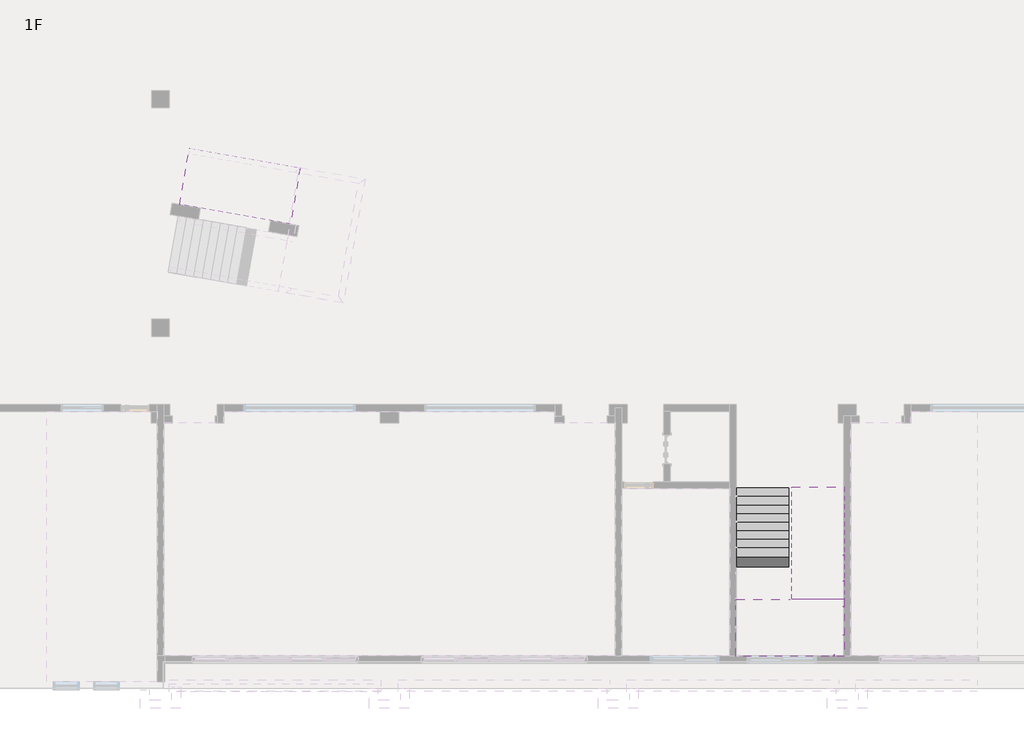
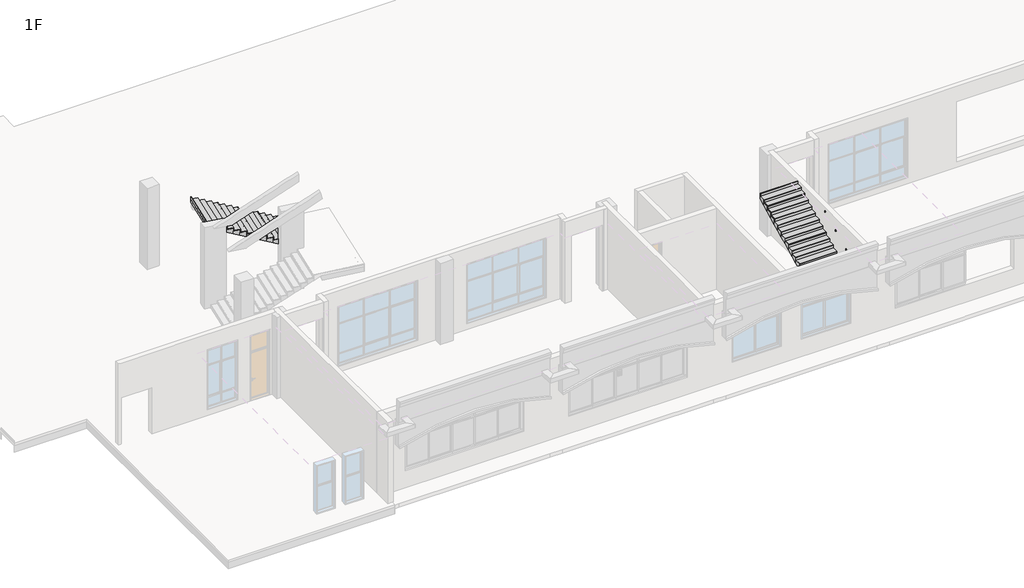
# One storey, part 10 of 16: 5 proxies, 3 stair flights, 1 slab.
"""IFC4 building model written with IfcOpenShell, lengths in millimetres."""

from ifc_helpers import new_model, si_unit, frame, origin, origin_with_axes, place, context, project, spatial, polyline, outline, extrude, faceted_brep, transform, mapped, element, save
from components import building_element_proxy_cf76aa7a

model = new_model("IFC4")

# Units and contexts
model_context = context("Model", 3, world=origin())
ifc_project = project(units=[si_unit("LENGTHUNIT", "METRE", prefix="MILLI")], contexts=[model_context])

# Site, building, storey
site = spatial("IfcSite", under=ifc_project)
building = spatial("IfcBuilding", under=site)
storey = spatial("IfcBuildingStorey", under=building, Name="1F", Elevation=0.0)

# Proxies
placement = place(None, origin())
building_element_proxy_shape = building_element_proxy_cf76aa7a(model_context)
element("IfcBuildingElementProxy", 1, Name="支座 - 金属 - 圆形 : 支座 - 金属 - 圆形", ObjectType="支座 - 金属 - 圆形 : 支座 - 金属 - 圆形", at=placement, inside=storey, context=model_context, shape_type="MappedRepresentation", body=[
    mapped(building_element_proxy_shape, transform((34538.8713753, 1173.0, 3169.8465326), x_axis=(-1.0, 0.0, 0.0), y_axis=(0.0, -1.0, 0.0), z_axis=(0.0, 0.0, 1.0))),
])
element("IfcBuildingElementProxy", 2, Name="支座 - 金属 - 圆形 : 支座 - 金属 - 圆形", ObjectType="支座 - 金属 - 圆形 : 支座 - 金属 - 圆形", at=placement, inside=storey, context=model_context, shape_type="MappedRepresentation", body=[
    mapped(building_element_proxy_shape, transform((34845.0, 1866.8713753, 3169.8465326), x_axis=(0.0, -1.0, 0.0), y_axis=(1.0, 0.0, 0.0), z_axis=(0.0, 0.0, 1.0))),
])
element("IfcBuildingElementProxy", 3, Name="支座 - 金属 - 圆形 : 支座 - 金属 - 圆形", ObjectType="支座 - 金属 - 圆形 : 支座 - 金属 - 圆形", at=placement, inside=storey, context=model_context, shape_type="MappedRepresentation", body=[
    mapped(building_element_proxy_shape, transform((34845.0, 2859.8115764, 3199.7523208), x_axis=(0.0, -1.0, 0.0), y_axis=(1.0, 0.0, 0.0), z_axis=(0.0, 0.0, 1.0))),
])
element("IfcBuildingElementProxy", 4, Name="支座 - 金属 - 圆形 : 支座 - 金属 - 圆形", ObjectType="支座 - 金属 - 圆形 : 支座 - 金属 - 圆形", at=placement, inside=storey, context=model_context, shape_type="MappedRepresentation", body=[
    mapped(building_element_proxy_shape, transform((34845.0, 3754.2387674, 3646.9659163), x_axis=(0.0, -1.0, 0.0), y_axis=(1.0, 0.0, 0.0), z_axis=(0.0, 0.0, 1.0))),
])
element("IfcBuildingElementProxy", 5, Name="支座 - 金属 - 圆形 : 支座 - 金属 - 圆形", ObjectType="支座 - 金属 - 圆形 : 支座 - 金属 - 圆形", at=placement, inside=storey, context=model_context, shape_type="MappedRepresentation", body=[
    mapped(building_element_proxy_shape, transform((34845.0, 4648.6659584, 4094.1795118), x_axis=(0.0, -1.0, 0.0), y_axis=(1.0, 0.0, 0.0), z_axis=(0.0, 0.0, 1.0))),
])

# Slab
element("IfcSlab", 6, ObjectType="120mm 厚度", at=placement, inside=storey, context=model_context, shape_type="SolidModel", body=[
    faceted_brep([(32950.0000029, 3100.0, 2070.0), (32950.0000029, 3070.0, 2070.0), (31100.0000029, 3070.0, 2070.0), (31100.0000029, 2741.6718427, 2070.0), (31100.0000029, 1118.0, 2070.0), (34900.0, 1118.0, 2070.0), (34900.0, 3100.0, 2070.0), (34900.0, 3130.0, 2070.0), (33050.0, 3130.0, 2070.0), (33050.0, 3100.0, 2070.0), (32950.0000029, 3100.0, 1950.0), (32950.0000029, 3070.0, 1950.0), (32950.0000029, 3070.0, 1920.0), (32950.0000029, 3070.0, 1785.8359214), (31100.0000029, 3070.0, 1785.8359214), (31100.0000029, 3070.0, 1920.0), (31100.0000029, 2741.6718427, 1950.0), (31100.0000029, 1118.0, 1950.0), (34900.0, 1118.0, 1950.0), (34900.0, 3100.0, 1950.0), (34900.0, 3130.0, 1950.0), (33050.0, 3130.0, 1950.0), (33050.0, 3100.0, 1950.0), (32950.0000029, 2741.6718427, 1950.0)], [[[0, 1, 2, 3, 4, 5, 6, 7, 8, 9]], [[1, 0, 10, 11]], [[2, 1, 11, 12, 13, 14, 15]], [[2, 15, 14, 16, 17, 4, 3]], [[5, 4, 17, 18]], [[6, 5, 18, 19]], [[7, 6, 19, 20]], [[8, 7, 20, 21]], [[9, 8, 21, 22]], [[0, 9, 22, 10]], [[16, 23, 11, 10, 22, 21, 20, 19, 18, 17]], [[23, 16, 14, 13]], [[11, 23, 13, 12]]]),
    extrude(outline(polyline([(32950.0000029, 3100.0), (33050.0, 3100.0), (34900.0, 3100.0), (34900.0, 1118.0), (31100.0000029, 1118.0), (31100.0000029, 3100.0), (32950.0000029, 3100.0)])), frame((0.0, 0.0, 2070.0), z_axis=(0.0, 0.0, 1.0), x_axis=(1.0, 0.0, 0.0)), (0.0, 0.0, 1.0), 30.0),
])

# Stair flights
element("IfcStairFlight", 7, ObjectType="120mm 结构深度", at=placement, inside=storey, context=model_context, shape_type="SolidModel", body=[
    faceted_brep([(32950.0000029, 6670.0, 120.0), (32950.0000029, 6970.0, 120.0), (31100.0000029, 6970.0, 120.0), (31100.0000029, 6670.0, 120.0), (32950.0000029, 6670.0, 0.0), (32950.0000029, 6970.0, 0.0), (31100.0000029, 6970.0, 0.0), (31100.0000029, 6670.0, 0.0), (32950.0000029, 6370.0, 270.0), (32950.0000029, 6670.0, 270.0), (31100.0000029, 6670.0, 270.0), (31100.0000029, 6370.0, 270.0), (32950.0000029, 6370.0, 135.8359214), (32950.0000029, 6641.6718427, 0.0), (31100.0000029, 6641.6718427, 0.0), (31100.0000029, 6370.0, 135.8359214), (32950.0000029, 6070.0, 420.0), (32950.0000029, 6370.0, 420.0), (31100.0000029, 6370.0, 420.0), (31100.0000029, 6070.0, 420.0), (32950.0000029, 6070.0, 285.8359214), (31100.0000029, 6070.0, 285.8359214), (32950.0000029, 5770.0, 570.0), (32950.0000029, 6070.0, 570.0), (31100.0000029, 6070.0, 570.0), (31100.0000029, 5770.0, 570.0), (32950.0000029, 5770.0, 435.8359214), (31100.0000029, 5770.0, 435.8359214), (32950.0000029, 5470.0, 720.0), (32950.0000029, 5770.0, 720.0), (31100.0000029, 5770.0, 720.0), (31100.0000029, 5470.0, 720.0), (32950.0000029, 5470.0, 585.8359214), (31100.0000029, 5470.0, 585.8359214), (32950.0000029, 5170.0, 870.0), (32950.0000029, 5470.0, 870.0), (31100.0000029, 5470.0, 870.0), (31100.0000029, 5170.0, 870.0), (32950.0000029, 5170.0, 735.8359214), (31100.0000029, 5170.0, 735.8359214), (32950.0000029, 4870.0, 1020.0), (32950.0000029, 5170.0, 1020.0), (31100.0000029, 5170.0, 1020.0), (31100.0000029, 4870.0, 1020.0), (32950.0000029, 4870.0, 885.8359214), (31100.0000029, 4870.0, 885.8359214), (32950.0000029, 4570.0, 1170.0), (32950.0000029, 4870.0, 1170.0), (31100.0000029, 4870.0, 1170.0), (31100.0000029, 4570.0, 1170.0), (32950.0000029, 4570.0, 1035.8359214), (31100.0000029, 4570.0, 1035.8359214), (32950.0000029, 4270.0, 1320.0), (32950.0000029, 4570.0, 1320.0), (31100.0000029, 4570.0, 1320.0), (31100.0000029, 4270.0, 1320.0), (32950.0000029, 4270.0, 1185.8359214), (31100.0000029, 4270.0, 1185.8359214), (32950.0000029, 3970.0, 1470.0), (32950.0000029, 4270.0, 1470.0), (31100.0000029, 4270.0, 1470.0), (31100.0000029, 3970.0, 1470.0), (32950.0000029, 3970.0, 1335.8359214), (31100.0000029, 3970.0, 1335.8359214), (32950.0000029, 3670.0, 1620.0), (32950.0000029, 3970.0, 1620.0), (31100.0000029, 3970.0, 1620.0), (31100.0000029, 3670.0, 1620.0), (32950.0000029, 3670.0, 1485.8359214), (31100.0000029, 3670.0, 1485.8359214), (32950.0000029, 3370.0, 1770.0), (32950.0000029, 3670.0, 1770.0), (31100.0000029, 3670.0, 1770.0), (31100.0000029, 3370.0, 1770.0), (32950.0000029, 3370.0, 1635.8359214), (31100.0000029, 3370.0, 1635.8359214), (32950.0000029, 3070.0, 1920.0), (32950.0000029, 3370.0, 1920.0), (31100.0000029, 3370.0, 1920.0), (31100.0000029, 3100.0, 1920.0), (31100.0000029, 3070.0, 1920.0), (32950.0000029, 3070.0, 1785.8359214), (31100.0000029, 3100.0, 1770.8359214), (31100.0000029, 3070.0, 1785.8359214)], [[[0, 1, 2, 3]], [[1, 0, 4, 5]], [[2, 1, 5, 6]], [[3, 2, 6, 7]], [[8, 9, 10, 11]], [[4, 0, 9, 8, 12, 13]], [[0, 3, 10, 9]], [[3, 7, 14, 15, 11, 10]], [[16, 17, 18, 19]], [[17, 16, 20, 12, 8]], [[8, 11, 18, 17]], [[19, 18, 11, 15, 21]], [[22, 23, 24, 25]], [[23, 22, 26, 20, 16]], [[16, 19, 24, 23]], [[25, 24, 19, 21, 27]], [[28, 29, 30, 31]], [[29, 28, 32, 26, 22]], [[22, 25, 30, 29]], [[31, 30, 25, 27, 33]], [[34, 35, 36, 37]], [[35, 34, 38, 32, 28]], [[28, 31, 36, 35]], [[37, 36, 31, 33, 39]], [[40, 41, 42, 43]], [[41, 40, 44, 38, 34]], [[34, 37, 42, 41]], [[43, 42, 37, 39, 45]], [[46, 47, 48, 49]], [[47, 46, 50, 44, 40]], [[40, 43, 48, 47]], [[49, 48, 43, 45, 51]], [[52, 53, 54, 55]], [[53, 52, 56, 50, 46]], [[46, 49, 54, 53]], [[55, 54, 49, 51, 57]], [[58, 59, 60, 61]], [[59, 58, 62, 56, 52]], [[52, 55, 60, 59]], [[61, 60, 55, 57, 63]], [[64, 65, 66, 67]], [[65, 64, 68, 62, 58]], [[58, 61, 66, 65]], [[67, 66, 61, 63, 69]], [[70, 71, 72, 73]], [[71, 70, 74, 68, 64]], [[64, 67, 72, 71]], [[73, 72, 67, 69, 75]], [[76, 77, 78, 79, 80]], [[77, 76, 81, 74, 70]], [[70, 73, 78, 77]], [[78, 73, 75, 82, 83, 80, 79]], [[76, 80, 83, 81]], [[5, 4, 13, 14, 7, 6]], [[14, 13, 12, 20, 26, 32, 38, 44, 50, 56, 62, 68, 74, 81, 83, 82, 75, 69, 63, 57, 51, 45, 39, 33, 27, 21, 15]]]),
    extrude(outline(polyline([(31100.0000029, 6970.0), (31100.0000029, 7000.0), (32950.0000029, 7000.0), (32950.0000029, 6970.0), (31100.0000029, 6970.0)])), origin_with_axes(), (0.0, 0.0, 1.0), 120.0),
    extrude(outline(polyline([(32950.0000029, 6700.0), (31100.0000029, 6700.0), (31100.0000029, 7000.0), (32950.0000029, 7000.0), (32950.0000029, 6700.0)])), frame((0.0, 0.0, 120.0), z_axis=(0.0, 0.0, 1.0), x_axis=(1.0, 0.0, 0.0)), (0.0, 0.0, 1.0), 30.0),
    extrude(outline(polyline([(31100.0000029, 6670.0), (31100.0000029, 6700.0), (32950.0000029, 6700.0), (32950.0000029, 6670.0), (31100.0000029, 6670.0)])), frame((0.0, 0.0, 120.0), z_axis=(0.0, 0.0, 1.0), x_axis=(1.0, 0.0, 0.0)), (0.0, 0.0, 1.0), 150.0),
    extrude(outline(polyline([(32950.0000029, 6400.0), (31100.0000029, 6400.0), (31100.0000029, 6700.0), (32950.0000029, 6700.0), (32950.0000029, 6400.0)])), frame((0.0, 0.0, 270.0), z_axis=(0.0, 0.0, 1.0), x_axis=(1.0, 0.0, 0.0)), (0.0, 0.0, 1.0), 30.0),
    extrude(outline(polyline([(31100.0000029, 6370.0), (31100.0000029, 6400.0), (32950.0000029, 6400.0), (32950.0000029, 6370.0), (31100.0000029, 6370.0)])), frame((0.0, 0.0, 270.0), z_axis=(0.0, 0.0, 1.0), x_axis=(1.0, 0.0, 0.0)), (0.0, 0.0, 1.0), 150.0),
    extrude(outline(polyline([(32950.0000029, 6100.0), (31100.0000029, 6100.0), (31100.0000029, 6400.0), (32950.0000029, 6400.0), (32950.0000029, 6100.0)])), frame((0.0, 0.0, 420.0), z_axis=(0.0, 0.0, 1.0), x_axis=(1.0, 0.0, 0.0)), (0.0, 0.0, 1.0), 30.0),
    extrude(outline(polyline([(31100.0000029, 6070.0), (31100.0000029, 6100.0), (32950.0000029, 6100.0), (32950.0000029, 6070.0), (31100.0000029, 6070.0)])), frame((0.0, 0.0, 420.0), z_axis=(0.0, 0.0, 1.0), x_axis=(1.0, 0.0, 0.0)), (0.0, 0.0, 1.0), 150.0),
    extrude(outline(polyline([(32950.0000029, 5800.0), (31100.0000029, 5800.0), (31100.0000029, 6100.0), (32950.0000029, 6100.0), (32950.0000029, 5800.0)])), frame((0.0, 0.0, 570.0), z_axis=(0.0, 0.0, 1.0), x_axis=(1.0, 0.0, 0.0)), (0.0, 0.0, 1.0), 30.0),
    extrude(outline(polyline([(31100.0000029, 5770.0), (31100.0000029, 5800.0), (32950.0000029, 5800.0), (32950.0000029, 5770.0), (31100.0000029, 5770.0)])), frame((0.0, 0.0, 570.0), z_axis=(0.0, 0.0, 1.0), x_axis=(1.0, 0.0, 0.0)), (0.0, 0.0, 1.0), 150.0),
    extrude(outline(polyline([(32950.0000029, 5500.0), (31100.0000029, 5500.0), (31100.0000029, 5800.0), (32950.0000029, 5800.0), (32950.0000029, 5500.0)])), frame((0.0, 0.0, 720.0), z_axis=(0.0, 0.0, 1.0), x_axis=(1.0, 0.0, 0.0)), (0.0, 0.0, 1.0), 30.0),
    extrude(outline(polyline([(31100.0000029, 5470.0), (31100.0000029, 5500.0), (32950.0000029, 5500.0), (32950.0000029, 5470.0), (31100.0000029, 5470.0)])), frame((0.0, 0.0, 720.0), z_axis=(0.0, 0.0, 1.0), x_axis=(1.0, 0.0, 0.0)), (0.0, 0.0, 1.0), 150.0),
    extrude(outline(polyline([(32950.0000029, 5200.0), (31100.0000029, 5200.0), (31100.0000029, 5500.0), (32950.0000029, 5500.0), (32950.0000029, 5200.0)])), frame((0.0, 0.0, 870.0), z_axis=(0.0, 0.0, 1.0), x_axis=(1.0, 0.0, 0.0)), (0.0, 0.0, 1.0), 30.0),
    extrude(outline(polyline([(31100.0000029, 5170.0), (31100.0000029, 5200.0), (32950.0000029, 5200.0), (32950.0000029, 5170.0), (31100.0000029, 5170.0)])), frame((0.0, 0.0, 870.0), z_axis=(0.0, 0.0, 1.0), x_axis=(1.0, 0.0, 0.0)), (0.0, 0.0, 1.0), 150.0),
    extrude(outline(polyline([(32950.0000029, 4900.0), (31100.0000029, 4900.0), (31100.0000029, 5200.0), (32950.0000029, 5200.0), (32950.0000029, 4900.0)])), frame((0.0, 0.0, 1020.0), z_axis=(0.0, 0.0, 1.0), x_axis=(1.0, 0.0, 0.0)), (0.0, 0.0, 1.0), 30.0),
    extrude(outline(polyline([(31100.0000029, 4870.0), (31100.0000029, 4900.0), (32950.0000029, 4900.0), (32950.0000029, 4870.0), (31100.0000029, 4870.0)])), frame((0.0, 0.0, 1020.0), z_axis=(0.0, 0.0, 1.0), x_axis=(1.0, 0.0, 0.0)), (0.0, 0.0, 1.0), 150.0),
    extrude(outline(polyline([(32950.0000029, 4600.0), (31100.0000029, 4600.0), (31100.0000029, 4900.0), (32950.0000029, 4900.0), (32950.0000029, 4600.0)])), frame((0.0, 0.0, 1170.0), z_axis=(0.0, 0.0, 1.0), x_axis=(1.0, 0.0, 0.0)), (0.0, 0.0, 1.0), 30.0),
    extrude(outline(polyline([(31100.0000029, 4570.0), (31100.0000029, 4600.0), (32950.0000029, 4600.0), (32950.0000029, 4570.0), (31100.0000029, 4570.0)])), frame((0.0, 0.0, 1170.0), z_axis=(0.0, 0.0, 1.0), x_axis=(1.0, 0.0, 0.0)), (0.0, 0.0, 1.0), 150.0),
    extrude(outline(polyline([(32950.0000029, 4300.0), (31100.0000029, 4300.0), (31100.0000029, 4600.0), (32950.0000029, 4600.0), (32950.0000029, 4300.0)])), frame((0.0, 0.0, 1320.0), z_axis=(0.0, 0.0, 1.0), x_axis=(1.0, 0.0, 0.0)), (0.0, 0.0, 1.0), 30.0),
    extrude(outline(polyline([(31100.0000029, 4270.0), (31100.0000029, 4300.0), (32950.0000029, 4300.0), (32950.0000029, 4270.0), (31100.0000029, 4270.0)])), frame((0.0, 0.0, 1320.0), z_axis=(0.0, 0.0, 1.0), x_axis=(1.0, 0.0, 0.0)), (0.0, 0.0, 1.0), 150.0),
    extrude(outline(polyline([(32950.0000029, 4000.0), (31100.0000029, 4000.0), (31100.0000029, 4300.0), (32950.0000029, 4300.0), (32950.0000029, 4000.0)])), frame((0.0, 0.0, 1470.0), z_axis=(0.0, 0.0, 1.0), x_axis=(1.0, 0.0, 0.0)), (0.0, 0.0, 1.0), 30.0),
    extrude(outline(polyline([(31100.0000029, 3970.0), (31100.0000029, 4000.0), (32950.0000029, 4000.0), (32950.0000029, 3970.0), (31100.0000029, 3970.0)])), frame((0.0, 0.0, 1470.0), z_axis=(0.0, 0.0, 1.0), x_axis=(1.0, 0.0, 0.0)), (0.0, 0.0, 1.0), 150.0),
    extrude(outline(polyline([(32950.0000029, 3700.0), (31100.0000029, 3700.0), (31100.0000029, 4000.0), (32950.0000029, 4000.0), (32950.0000029, 3700.0)])), frame((0.0, 0.0, 1620.0), z_axis=(0.0, 0.0, 1.0), x_axis=(1.0, 0.0, 0.0)), (0.0, 0.0, 1.0), 30.0),
    extrude(outline(polyline([(31100.0000029, 3670.0), (31100.0000029, 3700.0), (32950.0000029, 3700.0), (32950.0000029, 3670.0), (31100.0000029, 3670.0)])), frame((0.0, 0.0, 1620.0), z_axis=(0.0, 0.0, 1.0), x_axis=(1.0, 0.0, 0.0)), (0.0, 0.0, 1.0), 150.0),
    extrude(outline(polyline([(32950.0000029, 3400.0), (31100.0000029, 3400.0), (31100.0000029, 3700.0), (32950.0000029, 3700.0), (32950.0000029, 3400.0)])), frame((0.0, 0.0, 1770.0), z_axis=(0.0, 0.0, 1.0), x_axis=(1.0, 0.0, 0.0)), (0.0, 0.0, 1.0), 30.0),
    extrude(outline(polyline([(31100.0000029, 3370.0), (31100.0000029, 3400.0), (32950.0000029, 3400.0), (32950.0000029, 3370.0), (31100.0000029, 3370.0)])), frame((0.0, 0.0, 1770.0), z_axis=(0.0, 0.0, 1.0), x_axis=(1.0, 0.0, 0.0)), (0.0, 0.0, 1.0), 150.0),
    extrude(outline(polyline([(31100.0000029, 3070.0), (31100.0000029, 3100.0), (32950.0000029, 3100.0), (32950.0000029, 3070.0), (31100.0000029, 3070.0)])), frame((0.0, 0.0, 1920.0), z_axis=(0.0, 0.0, 1.0), x_axis=(1.0, 0.0, 0.0)), (0.0, 0.0, 1.0), 150.0),
    extrude(outline(polyline([(32950.0000029, 3100.0), (31100.0000029, 3100.0), (31100.0000029, 3400.0), (32950.0000029, 3400.0), (32950.0000029, 3100.0)])), frame((0.0, 0.0, 1920.0), z_axis=(0.0, 0.0, 1.0), x_axis=(1.0, 0.0, 0.0)), (0.0, 0.0, 1.0), 30.0),
])
element("IfcStairFlight", 8, ObjectType="120mm 结构深度", at=placement, inside=storey, context=model_context, shape_type="SolidModel", body=[
    faceted_brep([(33050.0, 3130.0, 2220.0), (34900.0, 3130.0, 2220.0), (34900.0, 3158.3281573, 2220.0), (34900.0, 3430.0, 2220.0), (33050.0, 3430.0, 2220.0), (33050.0, 3158.3281573, 2220.0), (33050.0, 3430.0, 2085.8359214), (33050.0, 3158.3281573, 1950.0), (33050.0, 3130.0, 1950.0), (33050.0, 3130.0, 2070.0), (34900.0, 3130.0, 1950.0), (34900.0, 3130.0, 2070.0), (34900.0, 3158.3281573, 1950.0), (34900.0, 3430.0, 2085.8359214), (33050.0, 3730.0, 2370.0), (33050.0, 3430.0, 2370.0), (34900.0, 3430.0, 2370.0), (34900.0, 3730.0, 2370.0), (33050.0, 3730.0, 2235.8359214), (34900.0, 3730.0, 2235.8359214), (33050.0, 4030.0, 2520.0), (33050.0, 3730.0, 2520.0), (34900.0, 3730.0, 2520.0), (34900.0, 4030.0, 2520.0), (33050.0, 4030.0, 2385.8359214), (34900.0, 4030.0, 2385.8359214), (33050.0, 4330.0, 2670.0), (33050.0, 4030.0, 2670.0), (34900.0, 4030.0, 2670.0), (34900.0, 4330.0, 2670.0), (33050.0, 4330.0, 2535.8359214), (34900.0, 4330.0, 2535.8359214), (33050.0, 4630.0, 2820.0), (33050.0, 4330.0, 2820.0), (34900.0, 4330.0, 2820.0), (34900.0, 4630.0, 2820.0), (33050.0, 4630.0, 2685.8359214), (34900.0, 4630.0, 2685.8359214), (33050.0, 4930.0, 2970.0), (33050.0, 4630.0, 2970.0), (34900.0, 4630.0, 2970.0), (34900.0, 4930.0, 2970.0), (33050.0, 4930.0, 2835.8359214), (34900.0, 4930.0, 2835.8359214), (33050.0, 5230.0, 3120.0), (33050.0, 4930.0, 3120.0), (34900.0, 4930.0, 3120.0), (34900.0, 5230.0, 3120.0), (33050.0, 5230.0, 2985.8359214), (34900.0, 5230.0, 2985.8359214), (33050.0, 5530.0, 3270.0), (33050.0, 5230.0, 3270.0), (34900.0, 5230.0, 3270.0), (34900.0, 5530.0, 3270.0), (33050.0, 5530.0, 3135.8359214), (34900.0, 5530.0, 3135.8359214), (33050.0, 5830.0, 3420.0), (33050.0, 5530.0, 3420.0), (34900.0, 5530.0, 3420.0), (34900.0, 5830.0, 3420.0), (33050.0, 5830.0, 3285.8359214), (34900.0, 5830.0, 3285.8359214), (33050.0, 6130.0, 3570.0), (33050.0, 5830.0, 3570.0), (34900.0, 5830.0, 3570.0), (34900.0, 6130.0, 3570.0), (33050.0, 6130.0, 3435.8359214), (34900.0, 6130.0, 3435.8359214), (33050.0, 6430.0, 3720.0), (33050.0, 6130.0, 3720.0), (34900.0, 6130.0, 3720.0), (34900.0, 6430.0, 3720.0), (33050.0, 6430.0, 3585.8359214), (34900.0, 6430.0, 3585.8359214), (33050.0, 6730.0, 3870.0), (33050.0, 6430.0, 3870.0), (34900.0, 6430.0, 3870.0), (34900.0, 6730.0, 3870.0), (33050.0, 6730.0, 3735.8359214), (34900.0, 6730.0, 3735.8359214), (33050.0, 7030.0, 4020.0), (33050.0, 6730.0, 4020.0), (34900.0, 6730.0, 4020.0), (34900.0, 7030.0, 4020.0), (33050.0, 7030.0, 3885.8359214), (34900.0, 7030.0, 3885.8359214)], [[[0, 1, 2, 3, 4, 5]], [[4, 6, 7, 8, 9, 0, 5]], [[1, 0, 9, 8, 10, 11]], [[1, 11, 10, 12, 13, 3, 2]], [[14, 15, 16, 17]], [[15, 14, 18, 6, 4]], [[16, 15, 4, 3]], [[17, 16, 3, 13, 19]], [[20, 21, 22, 23]], [[21, 20, 24, 18, 14]], [[22, 21, 14, 17]], [[23, 22, 17, 19, 25]], [[26, 27, 28, 29]], [[27, 26, 30, 24, 20]], [[28, 27, 20, 23]], [[29, 28, 23, 25, 31]], [[32, 33, 34, 35]], [[33, 32, 36, 30, 26]], [[34, 33, 26, 29]], [[35, 34, 29, 31, 37]], [[38, 39, 40, 41]], [[39, 38, 42, 36, 32]], [[40, 39, 32, 35]], [[41, 40, 35, 37, 43]], [[44, 45, 46, 47]], [[45, 44, 48, 42, 38]], [[46, 45, 38, 41]], [[47, 46, 41, 43, 49]], [[50, 51, 52, 53]], [[51, 50, 54, 48, 44]], [[52, 51, 44, 47]], [[53, 52, 47, 49, 55]], [[56, 57, 58, 59]], [[57, 56, 60, 54, 50]], [[58, 57, 50, 53]], [[59, 58, 53, 55, 61]], [[62, 63, 64, 65]], [[63, 62, 66, 60, 56]], [[64, 63, 56, 59]], [[65, 64, 59, 61, 67]], [[68, 69, 70, 71]], [[69, 68, 72, 66, 62]], [[70, 69, 62, 65]], [[71, 70, 65, 67, 73]], [[74, 75, 76, 77]], [[75, 74, 78, 72, 68]], [[76, 75, 68, 71]], [[77, 76, 71, 73, 79]], [[80, 81, 82, 83]], [[81, 80, 84, 78, 74]], [[82, 81, 74, 77]], [[83, 82, 77, 79, 85]], [[80, 83, 85, 84]], [[12, 7, 6, 18, 24, 30, 36, 42, 48, 54, 60, 66, 72, 78, 84, 85, 79, 73, 67, 61, 55, 49, 43, 37, 31, 25, 19, 13]], [[7, 12, 10, 8]]]),
    extrude(outline(polyline([(34900.0, 3130.0), (34900.0, 3100.0), (33050.0, 3100.0), (33050.0, 3130.0), (34900.0, 3130.0)])), frame((0.0, 0.0, 2070.0), z_axis=(0.0, 0.0, 1.0), x_axis=(1.0, 0.0, 0.0)), (0.0, 0.0, 1.0), 150.0),
    extrude(outline(polyline([(33050.0, 3400.0), (34900.0, 3400.0), (34900.0, 3100.0), (33050.0, 3100.0), (33050.0, 3400.0)])), frame((0.0, 0.0, 2220.0), z_axis=(0.0, 0.0, 1.0), x_axis=(1.0, 0.0, 0.0)), (0.0, 0.0, 1.0), 30.0),
    extrude(outline(polyline([(34900.0, 3430.0), (34900.0, 3400.0), (33050.0, 3400.0), (33050.0, 3430.0), (34900.0, 3430.0)])), frame((0.0, 0.0, 2220.0), z_axis=(0.0, 0.0, 1.0), x_axis=(1.0, 0.0, 0.0)), (0.0, 0.0, 1.0), 150.0),
    extrude(outline(polyline([(33050.0, 3700.0), (34900.0, 3700.0), (34900.0, 3400.0), (33050.0, 3400.0), (33050.0, 3700.0)])), frame((0.0, 0.0, 2370.0), z_axis=(0.0, 0.0, 1.0), x_axis=(1.0, 0.0, 0.0)), (0.0, 0.0, 1.0), 30.0),
    extrude(outline(polyline([(34900.0, 3730.0), (34900.0, 3700.0), (33050.0, 3700.0), (33050.0, 3730.0), (34900.0, 3730.0)])), frame((0.0, 0.0, 2370.0), z_axis=(0.0, 0.0, 1.0), x_axis=(1.0, 0.0, 0.0)), (0.0, 0.0, 1.0), 150.0),
    extrude(outline(polyline([(33050.0, 4000.0), (34900.0, 4000.0), (34900.0, 3700.0), (33050.0, 3700.0), (33050.0, 4000.0)])), frame((0.0, 0.0, 2520.0), z_axis=(0.0, 0.0, 1.0), x_axis=(1.0, 0.0, 0.0)), (0.0, 0.0, 1.0), 30.0),
    extrude(outline(polyline([(34900.0, 4030.0), (34900.0, 4000.0), (33050.0, 4000.0), (33050.0, 4030.0), (34900.0, 4030.0)])), frame((0.0, 0.0, 2520.0), z_axis=(0.0, 0.0, 1.0), x_axis=(1.0, 0.0, 0.0)), (0.0, 0.0, 1.0), 150.0),
    extrude(outline(polyline([(33050.0, 4300.0), (34900.0, 4300.0), (34900.0, 4000.0), (33050.0, 4000.0), (33050.0, 4300.0)])), frame((0.0, 0.0, 2670.0), z_axis=(0.0, 0.0, 1.0), x_axis=(1.0, 0.0, 0.0)), (0.0, 0.0, 1.0), 30.0),
    extrude(outline(polyline([(34900.0, 4330.0), (34900.0, 4300.0), (33050.0, 4300.0), (33050.0, 4330.0), (34900.0, 4330.0)])), frame((0.0, 0.0, 2670.0), z_axis=(0.0, 0.0, 1.0), x_axis=(1.0, 0.0, 0.0)), (0.0, 0.0, 1.0), 150.0),
    extrude(outline(polyline([(33050.0, 4600.0), (34900.0, 4600.0), (34900.0, 4300.0), (33050.0, 4300.0), (33050.0, 4600.0)])), frame((0.0, 0.0, 2820.0), z_axis=(0.0, 0.0, 1.0), x_axis=(1.0, 0.0, 0.0)), (0.0, 0.0, 1.0), 30.0),
    extrude(outline(polyline([(34900.0, 4630.0), (34900.0, 4600.0), (33050.0, 4600.0), (33050.0, 4630.0), (34900.0, 4630.0)])), frame((0.0, 0.0, 2820.0), z_axis=(0.0, 0.0, 1.0), x_axis=(1.0, 0.0, 0.0)), (0.0, 0.0, 1.0), 150.0),
    extrude(outline(polyline([(33050.0, 4900.0), (34900.0, 4900.0), (34900.0, 4600.0), (33050.0, 4600.0), (33050.0, 4900.0)])), frame((0.0, 0.0, 2970.0), z_axis=(0.0, 0.0, 1.0), x_axis=(1.0, 0.0, 0.0)), (0.0, 0.0, 1.0), 30.0),
    extrude(outline(polyline([(34900.0, 4930.0), (34900.0, 4900.0), (33050.0, 4900.0), (33050.0, 4930.0), (34900.0, 4930.0)])), frame((0.0, 0.0, 2970.0), z_axis=(0.0, 0.0, 1.0), x_axis=(1.0, 0.0, 0.0)), (0.0, 0.0, 1.0), 150.0),
    extrude(outline(polyline([(33050.0, 5200.0), (34900.0, 5200.0), (34900.0, 4900.0), (33050.0, 4900.0), (33050.0, 5200.0)])), frame((0.0, 0.0, 3120.0), z_axis=(0.0, 0.0, 1.0), x_axis=(1.0, 0.0, 0.0)), (0.0, 0.0, 1.0), 30.0),
    extrude(outline(polyline([(34900.0, 5230.0), (34900.0, 5200.0), (33050.0, 5200.0), (33050.0, 5230.0), (34900.0, 5230.0)])), frame((0.0, 0.0, 3120.0), z_axis=(0.0, 0.0, 1.0), x_axis=(1.0, 0.0, 0.0)), (0.0, 0.0, 1.0), 150.0),
    extrude(outline(polyline([(33050.0, 5500.0), (34900.0, 5500.0), (34900.0, 5200.0), (33050.0, 5200.0), (33050.0, 5500.0)])), frame((0.0, 0.0, 3270.0), z_axis=(0.0, 0.0, 1.0), x_axis=(1.0, 0.0, 0.0)), (0.0, 0.0, 1.0), 30.0),
    extrude(outline(polyline([(34900.0, 5530.0), (34900.0, 5500.0), (33050.0, 5500.0), (33050.0, 5530.0), (34900.0, 5530.0)])), frame((0.0, 0.0, 3270.0), z_axis=(0.0, 0.0, 1.0), x_axis=(1.0, 0.0, 0.0)), (0.0, 0.0, 1.0), 150.0),
    extrude(outline(polyline([(33050.0, 5800.0), (34900.0, 5800.0), (34900.0, 5500.0), (33050.0, 5500.0), (33050.0, 5800.0)])), frame((0.0, 0.0, 3420.0), z_axis=(0.0, 0.0, 1.0), x_axis=(1.0, 0.0, 0.0)), (0.0, 0.0, 1.0), 30.0),
    extrude(outline(polyline([(34900.0, 5830.0), (34900.0, 5800.0), (33050.0, 5800.0), (33050.0, 5830.0), (34900.0, 5830.0)])), frame((0.0, 0.0, 3420.0), z_axis=(0.0, 0.0, 1.0), x_axis=(1.0, 0.0, 0.0)), (0.0, 0.0, 1.0), 150.0),
    extrude(outline(polyline([(33050.0, 6100.0), (34900.0, 6100.0), (34900.0, 5800.0), (33050.0, 5800.0), (33050.0, 6100.0)])), frame((0.0, 0.0, 3570.0), z_axis=(0.0, 0.0, 1.0), x_axis=(1.0, 0.0, 0.0)), (0.0, 0.0, 1.0), 30.0),
    extrude(outline(polyline([(34900.0, 6130.0), (34900.0, 6100.0), (33050.0, 6100.0), (33050.0, 6130.0), (34900.0, 6130.0)])), frame((0.0, 0.0, 3570.0), z_axis=(0.0, 0.0, 1.0), x_axis=(1.0, 0.0, 0.0)), (0.0, 0.0, 1.0), 150.0),
    extrude(outline(polyline([(33050.0, 6400.0), (34900.0, 6400.0), (34900.0, 6100.0), (33050.0, 6100.0), (33050.0, 6400.0)])), frame((0.0, 0.0, 3720.0), z_axis=(0.0, 0.0, 1.0), x_axis=(1.0, 0.0, 0.0)), (0.0, 0.0, 1.0), 30.0),
    extrude(outline(polyline([(34900.0, 6430.0), (34900.0, 6400.0), (33050.0, 6400.0), (33050.0, 6430.0), (34900.0, 6430.0)])), frame((0.0, 0.0, 3720.0), z_axis=(0.0, 0.0, 1.0), x_axis=(1.0, 0.0, 0.0)), (0.0, 0.0, 1.0), 150.0),
    extrude(outline(polyline([(33050.0, 6700.0), (34900.0, 6700.0), (34900.0, 6400.0), (33050.0, 6400.0), (33050.0, 6700.0)])), frame((0.0, 0.0, 3870.0), z_axis=(0.0, 0.0, 1.0), x_axis=(1.0, 0.0, 0.0)), (0.0, 0.0, 1.0), 30.0),
    extrude(outline(polyline([(34900.0, 6730.0), (34900.0, 6700.0), (33050.0, 6700.0), (33050.0, 6730.0), (34900.0, 6730.0)])), frame((0.0, 0.0, 3870.0), z_axis=(0.0, 0.0, 1.0), x_axis=(1.0, 0.0, 0.0)), (0.0, 0.0, 1.0), 150.0),
    extrude(outline(polyline([(34900.0, 7030.0), (34900.0, 7000.0), (33050.0, 7000.0), (33050.0, 7030.0), (34900.0, 7030.0)])), frame((0.0, 0.0, 4020.0), z_axis=(0.0, 0.0, 1.0), x_axis=(1.0, 0.0, 0.0)), (0.0, 0.0, 1.0), 150.0),
    extrude(outline(polyline([(33050.0, 7000.0), (34900.0, 7000.0), (34900.0, 6700.0), (33050.0, 6700.0), (33050.0, 7000.0)])), frame((0.0, 0.0, 4020.0), z_axis=(0.0, 0.0, 1.0), x_axis=(1.0, 0.0, 0.0)), (0.0, 0.0, 1.0), 30.0),
])
element("IfcStairFlight", 9, ObjectType="120mm 结构深度", at=placement, inside=storey, context=model_context, shape_type="SolidModel", body=[
    faceted_brep([(15505.6144421, 16237.9155168, 2220.0), (15852.9107974, 18207.5310228, 2220.0), (15825.0130085, 18212.4501557, 2220.0), (15557.4684715, 18259.6254761, 2220.0), (15210.1721162, 16290.0099701, 2220.0), (15477.7166531, 16242.8346497, 2220.0), (15210.1721162, 16290.0099701, 2085.8359214), (15477.7166531, 16242.8346497, 1950.0), (15505.6144421, 16237.9155168, 1950.0), (15505.6144421, 16237.9155168, 2070.0), (15852.9107974, 18207.5310228, 1950.0), (15852.9107974, 18207.5310228, 2070.0), (15825.0130085, 18212.4501557, 1950.0), (15557.4684715, 18259.6254761, 2085.8359214), (14914.7297903, 16342.1044234, 2370.0), (15210.1721162, 16290.0099701, 2370.0), (15557.4684715, 18259.6254761, 2370.0), (15262.0261456, 18311.7199294, 2370.0), (14914.7297903, 16342.1044234, 2235.8359214), (15262.0261456, 18311.7199294, 2235.8359214), (14619.2874644, 16394.1988767, 2520.0), (14914.7297903, 16342.1044234, 2520.0), (15262.0261456, 18311.7199294, 2520.0), (14966.5838197, 18363.8143827, 2520.0), (14619.2874644, 16394.1988767, 2385.8359214), (14966.5838197, 18363.8143827, 2385.8359214), (14323.8451385, 16446.29333, 2670.0), (14619.2874644, 16394.1988767, 2670.0), (14966.5838197, 18363.8143827, 2670.0), (14671.1414938, 18415.908836, 2670.0), (14323.8451385, 16446.29333, 2535.8359214), (14671.1414938, 18415.908836, 2535.8359214), (14028.4028125, 16498.3877833, 2820.0), (14323.8451385, 16446.29333, 2820.0), (14671.1414938, 18415.908836, 2820.0), (14375.6991679, 18468.0032893, 2820.0), (14028.4028125, 16498.3877833, 2685.8359214), (14375.6991679, 18468.0032893, 2685.8359214), (13732.9604866, 16550.4822366, 2970.0), (14028.4028125, 16498.3877833, 2970.0), (14375.6991679, 18468.0032893, 2970.0), (14080.256842, 18520.0977426, 2970.0), (13732.9604866, 16550.4822366, 2835.8359214), (14080.256842, 18520.0977426, 2835.8359214), (13437.5181607, 16602.5766899, 3120.0), (13732.9604866, 16550.4822366, 3120.0), (14080.256842, 18520.0977426, 3120.0), (13784.8145161, 18572.1921959, 3120.0), (13437.5181607, 16602.5766899, 2985.8359214), (13784.8145161, 18572.1921959, 2985.8359214), (13142.0758348, 16654.6711432, 3270.0), (13437.5181607, 16602.5766899, 3270.0), (13784.8145161, 18572.1921959, 3270.0), (13489.3721902, 18624.2866492, 3270.0), (13142.0758348, 16654.6711432, 3135.8359214), (13489.3721902, 18624.2866492, 3135.8359214), (12846.6335089, 16706.7655965, 3420.0), (13142.0758348, 16654.6711432, 3420.0), (13489.3721902, 18624.2866492, 3420.0), (13193.9298643, 18676.3811025, 3420.0), (12846.6335089, 16706.7655965, 3285.8359214), (13193.9298643, 18676.3811025, 3285.8359214), (12551.191183, 16758.8600498, 3570.0), (12846.6335089, 16706.7655965, 3570.0), (13193.9298643, 18676.3811025, 3570.0), (12898.4875384, 18728.4755558, 3570.0), (12551.191183, 16758.8600498, 3435.8359214), (12898.4875384, 18728.4755558, 3435.8359214), (12255.7488571, 16810.9545031, 3720.0), (12551.191183, 16758.8600498, 3720.0), (12898.4875384, 18728.4755558, 3720.0), (12603.0452125, 18780.5700091, 3720.0), (12255.7488571, 16810.9545031, 3585.8359214), (12603.0452125, 18780.5700091, 3585.8359214), (11960.3065312, 16863.0489564, 3870.0), (12255.7488571, 16810.9545031, 3870.0), (12603.0452125, 18780.5700091, 3870.0), (12307.6028866, 18832.6644624, 3870.0), (11960.3065312, 16863.0489564, 3735.8359214), (12307.6028866, 18832.6644624, 3735.8359214), (11664.8642053, 16915.1434097, 4020.0), (11960.3065312, 16863.0489564, 4020.0), (12307.6028866, 18832.6644624, 4020.0), (12012.1605607, 18884.7589157, 4020.0), (11664.8642053, 16915.1434097, 3885.8359214), (12012.1605607, 18884.7589157, 3885.8359214)], [[[0, 1, 2, 3, 4, 5]], [[4, 6, 7, 8, 9, 0, 5]], [[1, 0, 9, 8, 10, 11]], [[1, 11, 10, 12, 13, 3, 2]], [[14, 15, 16, 17]], [[15, 14, 18, 6, 4]], [[16, 15, 4, 3]], [[17, 16, 3, 13, 19]], [[20, 21, 22, 23]], [[21, 20, 24, 18, 14]], [[22, 21, 14, 17]], [[23, 22, 17, 19, 25]], [[26, 27, 28, 29]], [[27, 26, 30, 24, 20]], [[28, 27, 20, 23]], [[29, 28, 23, 25, 31]], [[32, 33, 34, 35]], [[33, 32, 36, 30, 26]], [[34, 33, 26, 29]], [[35, 34, 29, 31, 37]], [[38, 39, 40, 41]], [[39, 38, 42, 36, 32]], [[40, 39, 32, 35]], [[41, 40, 35, 37, 43]], [[44, 45, 46, 47]], [[45, 44, 48, 42, 38]], [[46, 45, 38, 41]], [[47, 46, 41, 43, 49]], [[50, 51, 52, 53]], [[51, 50, 54, 48, 44]], [[52, 51, 44, 47]], [[53, 52, 47, 49, 55]], [[56, 57, 58, 59]], [[57, 56, 60, 54, 50]], [[58, 57, 50, 53]], [[59, 58, 53, 55, 61]], [[62, 63, 64, 65]], [[63, 62, 66, 60, 56]], [[64, 63, 56, 59]], [[65, 64, 59, 61, 67]], [[68, 69, 70, 71]], [[69, 68, 72, 66, 62]], [[70, 69, 62, 65]], [[71, 70, 65, 67, 73]], [[74, 75, 76, 77]], [[75, 74, 78, 72, 68]], [[76, 75, 68, 71]], [[77, 76, 71, 73, 79]], [[80, 81, 82, 83]], [[81, 80, 84, 78, 74]], [[82, 81, 74, 77]], [[83, 82, 77, 79, 85]], [[80, 83, 85, 84]], [[12, 7, 6, 18, 24, 30, 36, 42, 48, 54, 60, 66, 72, 78, 84, 85, 79, 73, 67, 61, 55, 49, 43, 37, 31, 25, 19, 13]], [[7, 12, 10, 8]]]),
    extrude(outline(polyline([(15852.9107974, 18207.5310228), (15882.45503, 18202.3215775), (15535.1586747, 16232.7060714), (15505.6144421, 16237.9155168), (15852.9107974, 18207.5310228)])), frame((0.0, 0.0, 2070.0), z_axis=(0.0, 0.0, 1.0), x_axis=(1.0, 0.0, 0.0)), (0.0, 0.0, 1.0), 150.0),
    extrude(outline(polyline([(15239.7163488, 16284.8005247), (15587.0127041, 18254.4160308), (15882.45503, 18202.3215775), (15535.1586747, 16232.7060714), (15239.7163488, 16284.8005247)])), frame((0.0, 0.0, 2220.0), z_axis=(0.0, 0.0, 1.0), x_axis=(1.0, 0.0, 0.0)), (0.0, 0.0, 1.0), 30.0),
    extrude(outline(polyline([(15557.4684715, 18259.6254761), (15587.0127041, 18254.4160308), (15239.7163488, 16284.8005247), (15210.1721162, 16290.0099701), (15557.4684715, 18259.6254761)])), frame((0.0, 0.0, 2220.0), z_axis=(0.0, 0.0, 1.0), x_axis=(1.0, 0.0, 0.0)), (0.0, 0.0, 1.0), 150.0),
    extrude(outline(polyline([(14944.2740228, 16336.894978), (15291.5703782, 18306.5104841), (15587.0127041, 18254.4160308), (15239.7163488, 16284.8005247), (14944.2740228, 16336.894978)])), frame((0.0, 0.0, 2370.0), z_axis=(0.0, 0.0, 1.0), x_axis=(1.0, 0.0, 0.0)), (0.0, 0.0, 1.0), 30.0),
    extrude(outline(polyline([(15262.0261456, 18311.7199294), (15291.5703782, 18306.5104841), (14944.2740228, 16336.894978), (14914.7297903, 16342.1044234), (15262.0261456, 18311.7199294)])), frame((0.0, 0.0, 2370.0), z_axis=(0.0, 0.0, 1.0), x_axis=(1.0, 0.0, 0.0)), (0.0, 0.0, 1.0), 150.0),
    extrude(outline(polyline([(14648.8316969, 16388.9894313), (14996.1280523, 18358.6049374), (15291.5703782, 18306.5104841), (14944.2740228, 16336.894978), (14648.8316969, 16388.9894313)])), frame((0.0, 0.0, 2520.0), z_axis=(0.0, 0.0, 1.0), x_axis=(1.0, 0.0, 0.0)), (0.0, 0.0, 1.0), 30.0),
    extrude(outline(polyline([(14966.5838197, 18363.8143827), (14996.1280523, 18358.6049374), (14648.8316969, 16388.9894313), (14619.2874644, 16394.1988767), (14966.5838197, 18363.8143827)])), frame((0.0, 0.0, 2520.0), z_axis=(0.0, 0.0, 1.0), x_axis=(1.0, 0.0, 0.0)), (0.0, 0.0, 1.0), 150.0),
    extrude(outline(polyline([(14353.389371, 16441.0838846), (14700.6857264, 18410.6993907), (14996.1280523, 18358.6049374), (14648.8316969, 16388.9894313), (14353.389371, 16441.0838846)])), frame((0.0, 0.0, 2670.0), z_axis=(0.0, 0.0, 1.0), x_axis=(1.0, 0.0, 0.0)), (0.0, 0.0, 1.0), 30.0),
    extrude(outline(polyline([(14671.1414938, 18415.908836), (14700.6857264, 18410.6993907), (14353.389371, 16441.0838846), (14323.8451385, 16446.29333), (14671.1414938, 18415.908836)])), frame((0.0, 0.0, 2670.0), z_axis=(0.0, 0.0, 1.0), x_axis=(1.0, 0.0, 0.0)), (0.0, 0.0, 1.0), 150.0),
    extrude(outline(polyline([(14057.9470451, 16493.1783379), (14405.2434005, 18462.793844), (14700.6857264, 18410.6993907), (14353.389371, 16441.0838846), (14057.9470451, 16493.1783379)])), frame((0.0, 0.0, 2820.0), z_axis=(0.0, 0.0, 1.0), x_axis=(1.0, 0.0, 0.0)), (0.0, 0.0, 1.0), 30.0),
    extrude(outline(polyline([(14375.6991679, 18468.0032893), (14405.2434005, 18462.793844), (14057.9470451, 16493.1783379), (14028.4028125, 16498.3877833), (14375.6991679, 18468.0032893)])), frame((0.0, 0.0, 2820.0), z_axis=(0.0, 0.0, 1.0), x_axis=(1.0, 0.0, 0.0)), (0.0, 0.0, 1.0), 150.0),
    extrude(outline(polyline([(13762.5047192, 16545.2727912), (14109.8010746, 18514.8882973), (14405.2434005, 18462.793844), (14057.9470451, 16493.1783379), (13762.5047192, 16545.2727912)])), frame((0.0, 0.0, 2970.0), z_axis=(0.0, 0.0, 1.0), x_axis=(1.0, 0.0, 0.0)), (0.0, 0.0, 1.0), 30.0),
    extrude(outline(polyline([(14080.256842, 18520.0977426), (14109.8010746, 18514.8882973), (13762.5047192, 16545.2727912), (13732.9604866, 16550.4822366), (14080.256842, 18520.0977426)])), frame((0.0, 0.0, 2970.0), z_axis=(0.0, 0.0, 1.0), x_axis=(1.0, 0.0, 0.0)), (0.0, 0.0, 1.0), 150.0),
    extrude(outline(polyline([(13467.0623933, 16597.3672445), (13814.3587487, 18566.9827506), (14109.8010746, 18514.8882973), (13762.5047192, 16545.2727912), (13467.0623933, 16597.3672445)])), frame((0.0, 0.0, 3120.0), z_axis=(0.0, 0.0, 1.0), x_axis=(1.0, 0.0, 0.0)), (0.0, 0.0, 1.0), 30.0),
    extrude(outline(polyline([(13784.8145161, 18572.1921959), (13814.3587487, 18566.9827506), (13467.0623933, 16597.3672445), (13437.5181607, 16602.5766899), (13784.8145161, 18572.1921959)])), frame((0.0, 0.0, 3120.0), z_axis=(0.0, 0.0, 1.0), x_axis=(1.0, 0.0, 0.0)), (0.0, 0.0, 1.0), 150.0),
    extrude(outline(polyline([(13171.6200674, 16649.4616978), (13518.9164228, 18619.0772039), (13814.3587487, 18566.9827506), (13467.0623933, 16597.3672445), (13171.6200674, 16649.4616978)])), frame((0.0, 0.0, 3270.0), z_axis=(0.0, 0.0, 1.0), x_axis=(1.0, 0.0, 0.0)), (0.0, 0.0, 1.0), 30.0),
    extrude(outline(polyline([(13489.3721902, 18624.2866492), (13518.9164228, 18619.0772039), (13171.6200674, 16649.4616978), (13142.0758348, 16654.6711432), (13489.3721902, 18624.2866492)])), frame((0.0, 0.0, 3270.0), z_axis=(0.0, 0.0, 1.0), x_axis=(1.0, 0.0, 0.0)), (0.0, 0.0, 1.0), 150.0),
    extrude(outline(polyline([(12876.1777415, 16701.5561511), (13223.4740969, 18671.1716572), (13518.9164228, 18619.0772039), (13171.6200674, 16649.4616978), (12876.1777415, 16701.5561511)])), frame((0.0, 0.0, 3420.0), z_axis=(0.0, 0.0, 1.0), x_axis=(1.0, 0.0, 0.0)), (0.0, 0.0, 1.0), 30.0),
    extrude(outline(polyline([(13193.9298643, 18676.3811025), (13223.4740969, 18671.1716572), (12876.1777415, 16701.5561511), (12846.6335089, 16706.7655965), (13193.9298643, 18676.3811025)])), frame((0.0, 0.0, 3420.0), z_axis=(0.0, 0.0, 1.0), x_axis=(1.0, 0.0, 0.0)), (0.0, 0.0, 1.0), 150.0),
    extrude(outline(polyline([(12580.7354156, 16753.6506044), (12928.031771, 18723.2661105), (13223.4740969, 18671.1716572), (12876.1777415, 16701.5561511), (12580.7354156, 16753.6506044)])), frame((0.0, 0.0, 3570.0), z_axis=(0.0, 0.0, 1.0), x_axis=(1.0, 0.0, 0.0)), (0.0, 0.0, 1.0), 30.0),
    extrude(outline(polyline([(12898.4875384, 18728.4755558), (12928.031771, 18723.2661105), (12580.7354156, 16753.6506044), (12551.191183, 16758.8600498), (12898.4875384, 18728.4755558)])), frame((0.0, 0.0, 3570.0), z_axis=(0.0, 0.0, 1.0), x_axis=(1.0, 0.0, 0.0)), (0.0, 0.0, 1.0), 150.0),
    extrude(outline(polyline([(12285.2930897, 16805.7450577), (12632.589445, 18775.3605638), (12928.031771, 18723.2661105), (12580.7354156, 16753.6506044), (12285.2930897, 16805.7450577)])), frame((0.0, 0.0, 3720.0), z_axis=(0.0, 0.0, 1.0), x_axis=(1.0, 0.0, 0.0)), (0.0, 0.0, 1.0), 30.0),
    extrude(outline(polyline([(12603.0452125, 18780.5700091), (12632.589445, 18775.3605638), (12285.2930897, 16805.7450577), (12255.7488571, 16810.9545031), (12603.0452125, 18780.5700091)])), frame((0.0, 0.0, 3720.0), z_axis=(0.0, 0.0, 1.0), x_axis=(1.0, 0.0, 0.0)), (0.0, 0.0, 1.0), 150.0),
    extrude(outline(polyline([(11989.8507638, 16857.839511), (12337.1471191, 18827.4550171), (12632.589445, 18775.3605638), (12285.2930897, 16805.7450577), (11989.8507638, 16857.839511)])), frame((0.0, 0.0, 3870.0), z_axis=(0.0, 0.0, 1.0), x_axis=(1.0, 0.0, 0.0)), (0.0, 0.0, 1.0), 30.0),
    extrude(outline(polyline([(12307.6028866, 18832.6644624), (12337.1471191, 18827.4550171), (11989.8507638, 16857.839511), (11960.3065312, 16863.0489564), (12307.6028866, 18832.6644624)])), frame((0.0, 0.0, 3870.0), z_axis=(0.0, 0.0, 1.0), x_axis=(1.0, 0.0, 0.0)), (0.0, 0.0, 1.0), 150.0),
    extrude(outline(polyline([(12012.1605607, 18884.7589157), (12041.7047932, 18879.5494704), (11694.4084379, 16909.9339643), (11664.8642053, 16915.1434097), (12012.1605607, 18884.7589157)])), frame((0.0, 0.0, 4020.0), z_axis=(0.0, 0.0, 1.0), x_axis=(1.0, 0.0, 0.0)), (0.0, 0.0, 1.0), 150.0),
    extrude(outline(polyline([(11694.4084379, 16909.9339643), (12041.7047932, 18879.5494704), (12337.1471191, 18827.4550171), (11989.8507638, 16857.839511), (11694.4084379, 16909.9339643)])), frame((0.0, 0.0, 4020.0), z_axis=(0.0, 0.0, 1.0), x_axis=(1.0, 0.0, 0.0)), (0.0, 0.0, 1.0), 30.0),
])

save(model, "model.ifc")
